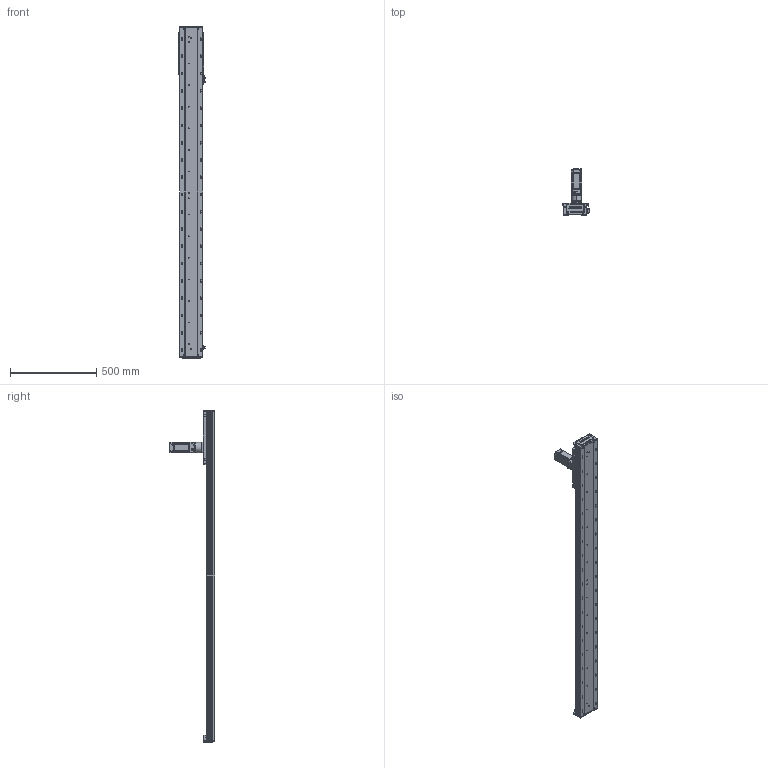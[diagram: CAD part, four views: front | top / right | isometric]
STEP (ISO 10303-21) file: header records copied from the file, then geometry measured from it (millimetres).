
FILE_DESCRIPTION (( 'STEP AP203' ), '1' );
FILE_NAME ('RY140-C-250-UK.SLDASM_1550.step', '2022-03-12T01:59:23', ( '' ), ( '' ), 'SwSTEP 2.0', 'SolidWorks 2016', '' );
FILE_SCHEMA (( 'CONFIG_CONTROL_DESIGN' ));
Length unit declared in the file: millimetre
Products named in the file (12): RY140-喘謫萇儂覃誹啣; RY140-C-250-UK.SLDASM_1550; RY140-300齿条模组型材底座_1550; RY140-喘沭裔啣; 60ZDF珨撰俋倛芞T1 200W M4; RY140-喘沭賑輸; 絳寢賑輸EGH15; RY120外置感应片(140共用）; 15; 覜茼ん672; RY140-絳寢EGH15-300-MK_1550; 140蚥薯蝶輸
Assembly tree (21 placements, depth 2):
  RY140-C-250-UK.SLDASM_1550
    RY140-300齿条模组型材底座_1550
    RY140-絳寢EGH15-300-MK_1550  x2
    絳寢賑輸EGH15  x6
    RY140-喘沭裔啣  x2
    覜茼ん672  x3
    RY140-喘沭賑輸
    RY120外置感应片(140共用）
    RY140-喘謫萇儂覃誹啣
    140蚥薯蝶輸  x2
    60ZDF珨撰俋倛芞T1 200W M4
    15
Bounding box: 153.7 x 263.5 x 1922 mm (x, y, z)
Volume: 6389936.6 mm3; surface area: 1720801.5 mm2
Topology: 21 solids, 21 shells, 3714 faces, 9936 edges, 6414 vertices
Faces by surface type: cylinder 1716, plane 1676, cone 276, bspline 46
Entity records: 85351 total; most frequent: CARTESIAN_POINT 18982, ORIENTED_EDGE 13534, DIRECTION 13515, EDGE_CURVE 6767, AXIS2_PLACEMENT_3D 4868, VERTEX_POINT 4431, LINE 3779, VECTOR 3779
